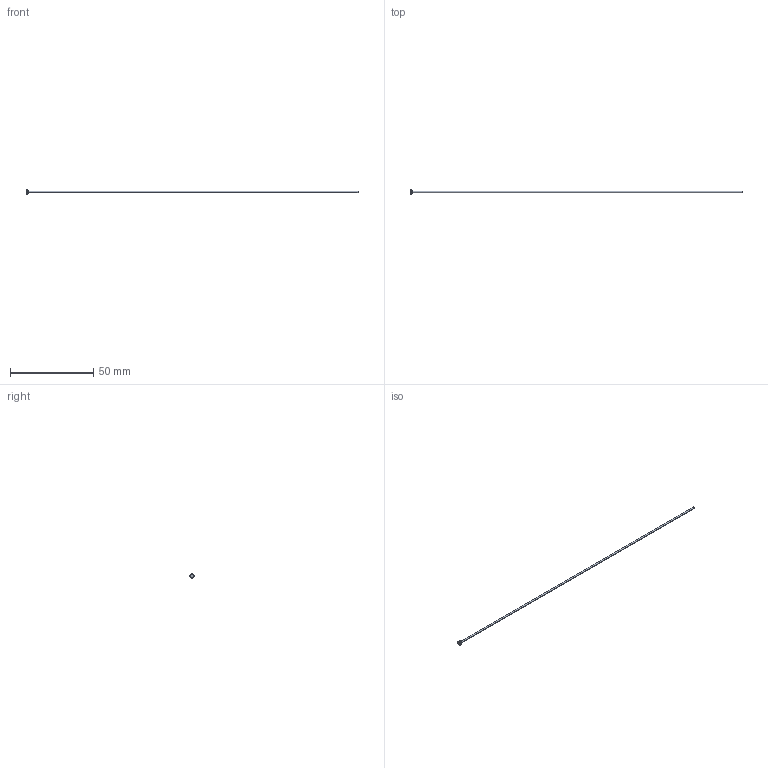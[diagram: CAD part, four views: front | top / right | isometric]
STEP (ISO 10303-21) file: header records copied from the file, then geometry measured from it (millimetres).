
FILE_DESCRIPTION (( 'STEP AP214' ), '1' );
FILE_NAME ('A-1x200.STEP', '2020-05-28T16:43:39', ( 'August' ), ( '' ), 'SwSTEP 2.0', 'SolidWorks 2018', '' );
FILE_SCHEMA (( 'AUTOMOTIVE_DESIGN' ));
Length unit declared in the file: millimetre
Products named in the file (1): A-1x200
Bounding box: 200 x 2.5 x 2.5 mm (x, y, z)
Volume: 162.1 mm3; surface area: 643.5 mm2
Topology: 1 solids, 1 shells, 9 faces, 16 edges, 10 vertices
Faces by surface type: cylinder 4, plane 3, torus 2
Entity records: 260 total; most frequent: DIRECTION 48, CARTESIAN_POINT 36, ORIENTED_EDGE 32, AXIS2_PLACEMENT_3D 22, EDGE_CURVE 16, CIRCLE 12, EDGE_LOOP 10, VERTEX_POINT 10
